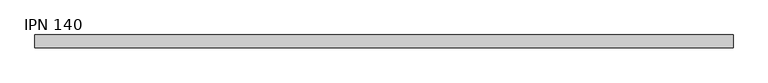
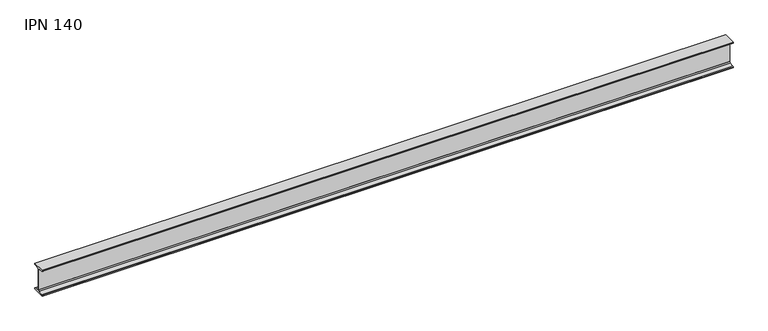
"""IFC4 building model written with IfcOpenShell, lengths in millimetres: beam geometry, IPN - Secciones en I con alas cónicas : IPN 140."""

from ifc_helpers import new_model, si_unit, point, frame, frame_2d, origin, place, context, project, spatial, polyline, circle_curve, trimmed, segment, composite_curve, outline, extrude, source, transform, mapped, element, save


def ipn_140_d8756bba(model_context):
    return source(origin(), model_context, "Body", "SweptSolid", [
        extrude(outline(composite_curve([segment(polyline([(33.0, 70.0), (33.0, 66.6671583)]), True, "CONTINUOUS"), segment(trimmed(circle_curve(frame_2d((29.6, 66.6671583)), 3.4), [point((33.0, 66.6671583))], [point((30.0714027, 63.2999964))], False, "CARTESIAN"), True, "CONTINUOUS"), segment(polyline([(30.0714027, 63.2999964), (7.7597073, 60.176359)]), True, "CONTINUOUS"), segment(trimmed(circle_curve(frame_2d((8.55, 54.5314111)), 5.7), [point((7.7597073, 60.176359))], [point((2.85, 54.5314111))], True, "CARTESIAN"), True, "CONTINUOUS"), segment(polyline([(2.85, 54.5314111), (2.85, -54.5314111)]), True, "CONTINUOUS"), segment(trimmed(circle_curve(frame_2d((8.55, -54.5314111)), 5.7), [point((2.85, -54.5314111))], [point((7.7597073, -60.176359))], True, "CARTESIAN"), True, "CONTINUOUS"), segment(polyline([(7.7597073, -60.176359), (30.0714027, -63.2999964)]), True, "CONTINUOUS"), segment(trimmed(circle_curve(frame_2d((29.6, -66.6671583)), 3.4), [point((30.0714027, -63.2999964))], [point((33.0, -66.6671583))], False, "CARTESIAN"), True, "CONTINUOUS"), segment(polyline([(33.0, -66.6671583), (33.0, -70.0), (-33.0, -70.0), (-33.0, -66.6671583)]), True, "CONTINUOUS"), segment(trimmed(circle_curve(frame_2d((-29.6, -66.6671583)), 3.4), [point((-33.0, -66.6671583))], [point((-30.0714027, -63.2999964))], False, "CARTESIAN"), True, "CONTINUOUS"), segment(polyline([(-30.0714027, -63.2999964), (-7.7597073, -60.176359)]), True, "CONTINUOUS"), segment(trimmed(circle_curve(frame_2d((-8.55, -54.5314111)), 5.7), [point((-7.7597073, -60.176359))], [point((-2.85, -54.5314111))], True, "CARTESIAN"), True, "CONTINUOUS"), segment(polyline([(-2.85, -54.5314111), (-2.85, 54.5314111)]), True, "CONTINUOUS"), segment(trimmed(circle_curve(frame_2d((-8.55, 54.5314111)), 5.7), [point((-2.85, 54.5314111))], [point((-7.7597073, 60.176359))], True, "CARTESIAN"), True, "CONTINUOUS"), segment(polyline([(-7.7597073, 60.176359), (-30.0714027, 63.2999964)]), True, "CONTINUOUS"), segment(trimmed(circle_curve(frame_2d((-29.6, 66.6671583)), 3.4), [point((-30.0714027, 63.2999964))], [point((-33.0, 66.6671583))], False, "CARTESIAN"), True, "CONTINUOUS"), segment(polyline([(-33.0, 66.6671583), (-33.0, 70.0), (33.0, 70.0)]), True, "CONTINUOUS")], self_intersect=False)), frame((-1841.0, 0.0, 0.0), z_axis=(1.0, 0.0, 0.0), x_axis=(0.0, 1.0, 0.0)), (0.0, 0.0, 1.0), 3576.0),
    ])


if __name__ == "__main__":
    model = new_model("IFC4")
    model_context = context("Model", 3, world=origin())
    ifc_project = project(units=[si_unit("LENGTHUNIT", "METRE", prefix="MILLI")], contexts=[model_context])
    site = spatial("IfcSite", under=ifc_project)
    building = spatial("IfcBuilding", under=site)
    placement = place(None, origin())
    ipn_140_shape = ipn_140_d8756bba(model_context)
    element("IfcBeam", 1, ObjectType="IPN - Secciones en I con alas cónicas : IPN 140", at=placement, inside=building, context=model_context, shape_type="MappedRepresentation", body=[
        mapped(ipn_140_shape, transform((0.0, 0.0, 0.0), x_axis=(1.0, 0.0, 0.0), y_axis=(0.0, 1.0, 0.0), z_axis=(0.0, 0.0, 1.0))),
    ])
    save(model, "model.ifc")
